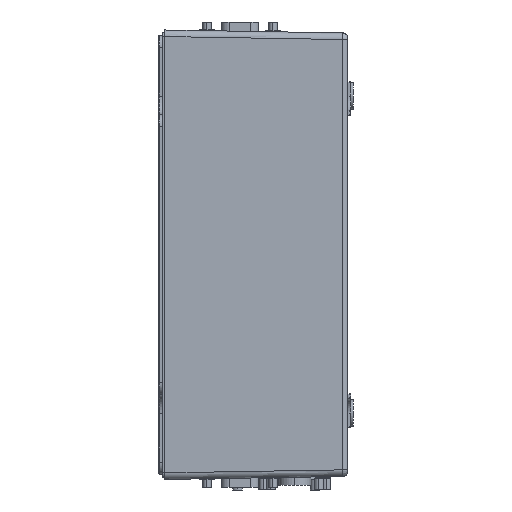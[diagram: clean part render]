
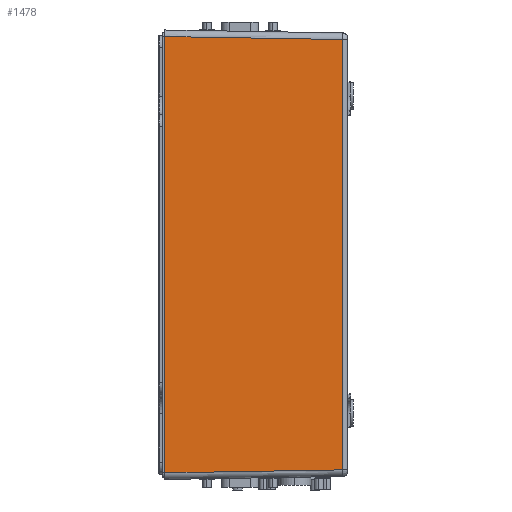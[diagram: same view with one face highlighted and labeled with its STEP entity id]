
A CAD part, left-side view. The second image highlights one B-rep face of the part: STEP entity #1478.
In plain terms, the highlighted planar face has unit normal (-1, -0.017, 0).
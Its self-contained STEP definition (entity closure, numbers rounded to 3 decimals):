
#1478=ADVANCED_FACE('',(#2786),#11716,.T.);
#2786=FACE_OUTER_BOUND('',#4343,.F.);
#4343=EDGE_LOOP('',(#8076,#8077,#8078,#8079));
#8076=ORIENTED_EDGE('',*,*,#17282,.T.);
#8077=ORIENTED_EDGE('',*,*,#17090,.T.);
#8078=ORIENTED_EDGE('',*,*,#17283,.T.);
#8079=ORIENTED_EDGE('',*,*,#17214,.T.);
#11716=PLANE('',#22429);
#12271=LINE('',#34322,#14201);
#12337=LINE('',#34950,#14267);
#12352=LINE('',#35524,#14282);
#12353=LINE('',#35525,#14283);
#14201=VECTOR('',#23915,162.744);
#14267=VECTOR('',#23981,164.974);
#14282=VECTOR('',#23996,67.252);
#14283=VECTOR('',#23997,67.252);
#17090=EDGE_CURVE('',#20952,#20951,#12271,.T.);
#17214=EDGE_CURVE('',#20893,#20894,#12337,.T.);
#17282=EDGE_CURVE('',#20894,#20952,#12352,.T.);
#17283=EDGE_CURVE('',#20951,#20893,#12353,.T.);
#20893=VERTEX_POINT('',#29634);
#20894=VERTEX_POINT('',#29635);
#20951=VERTEX_POINT('',#29692);
#20952=VERTEX_POINT('',#29693);
#22429=AXIS2_PLACEMENT_3D('',#107488,#26114,#26115);
#23915=DIRECTION('',(0.,0.,-1.));
#23981=DIRECTION('',(0.,0.,1.));
#23996=DIRECTION('',(0.017,-1.,-0.017));
#23997=DIRECTION('',(-0.017,1.,-0.017));
#26114=DIRECTION('',(-1.,-0.017,0.));
#26115=DIRECTION('',(0.,0.,-1.));
#29634=CARTESIAN_POINT('',(-139.987,-0.8,-82.487));
#29635=CARTESIAN_POINT('',(-139.987,-0.8,82.487));
#29692=CARTESIAN_POINT('',(-138.872,-68.033,-81.372));
#29693=CARTESIAN_POINT('',(-138.872,-68.033,81.372));
#34322=CARTESIAN_POINT('',(-138.872,-68.033,81.372));
#34950=CARTESIAN_POINT('',(-139.987,-0.8,-82.487));
#35524=CARTESIAN_POINT('',(-139.987,-0.8,82.487));
#35525=CARTESIAN_POINT('',(-138.872,-68.033,-81.372));
#107488=CARTESIAN_POINT('',(-140.123,7.448,90.736));
